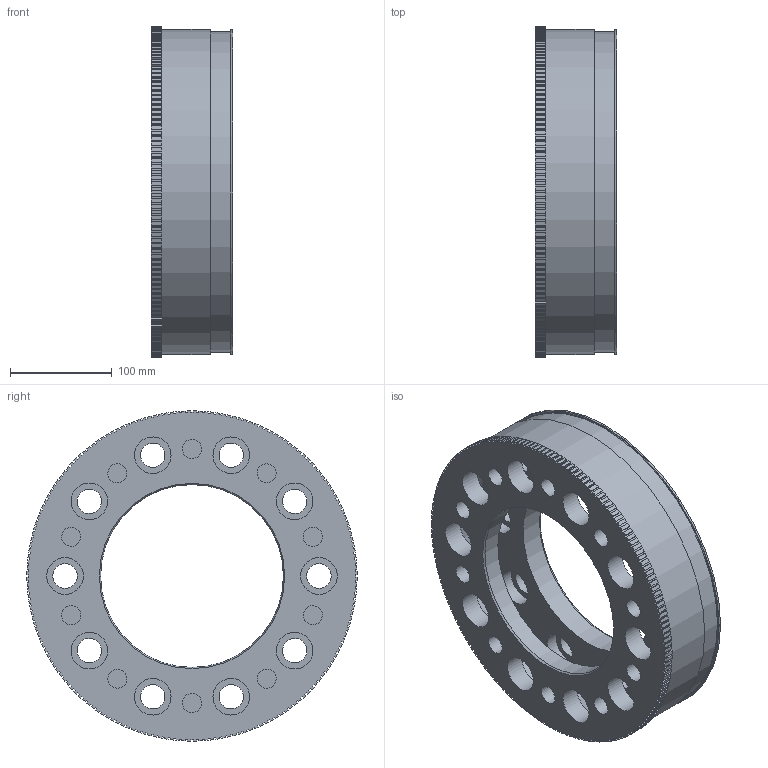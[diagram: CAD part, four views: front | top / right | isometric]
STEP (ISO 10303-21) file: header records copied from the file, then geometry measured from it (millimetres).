
FILE_DESCRIPTION(/* description */ (''),/* implementation_level */ '2;1');
FILE_NAME(/* name */ 'F:\Sensorik\Standard_Messflansche\08_20000_35000_Nm\Vertrieb\RF_20-35kNm.stp',/* time_stamp */ '2019-08-16T11:25:18+02:00',/* author */ ('lander'),/* organization */ (''),/* preprocessor_version */ 'ST-DEVELOPER v16.5',/* originating_system */ 'Autodesk Inventor 2017',/* authorisation */ '');
FILE_SCHEMA (('AUTOMOTIVE_DESIGN { 1 0 10303 214 3 1 1 }'));
Length unit declared in the file: millimetre
Products named in the file (1): RF-Ø205_Freigabemodell
Bounding box: 80 x 324.99 x 324.99 mm (x, y, z)
Volume: 2279911.5 mm3; surface area: 377090.1 mm2
Topology: 1 solids, 1 shells, 789 faces, 2342 edges, 1568 vertices
Faces by surface type: plane 555, cylinder 226, cone 4, torus 4
Full cylindrical faces by diameter (mm): 18.752 x10, 24 x10, 36 x20, 180 x2, 304 x1, 315 x1, 320 x2
Entity records: 25948 total; most frequent: CARTESIAN_POINT 4586, ORIENTED_EDGE 4516, DIRECTION 4296, EDGE_CURVE 2258, LINE 1800, VECTOR 1800, VERTEX_POINT 1538, AXIS2_PLACEMENT_3D 1248
